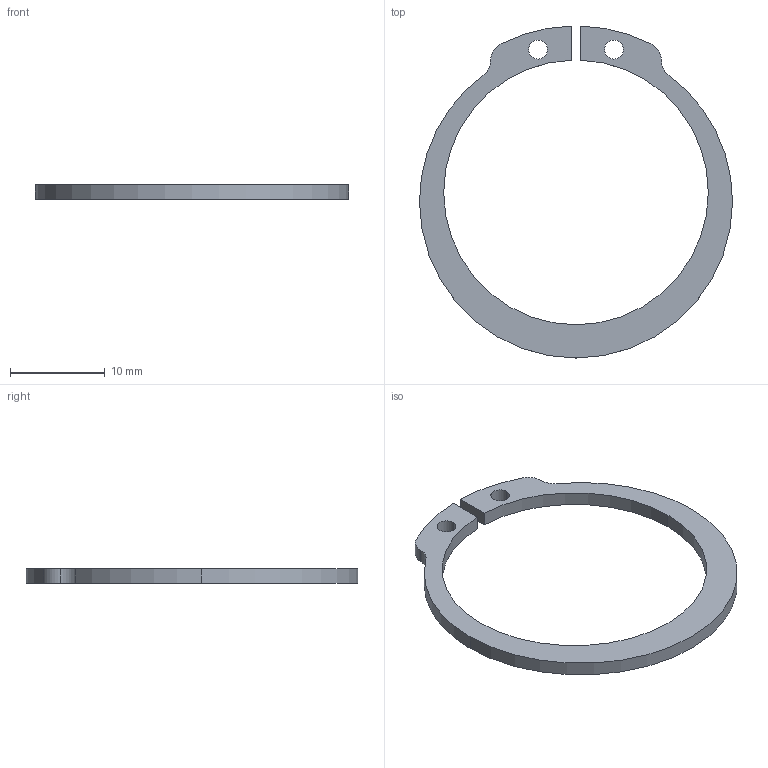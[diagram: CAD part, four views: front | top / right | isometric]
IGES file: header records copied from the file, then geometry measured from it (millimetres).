
Start section: START RECORD GO HERE.
Global section: file name: 553S-R30.igs; native system: DASSAULT SYSTEMES CATIA V5 R20 - www.3ds.com; preprocessor: CATIA Version 5 Release 20 ; author: Utente; organization: NB04-ASUS; date: 20210421.112136; units: millimetre
Bounding box: 33 x 34.99 x 1.5 mm (x, y, z)
Surface area: 860.8 mm2 (no closed solid volume)
Topology: 0 solids, 0 shells, 22 faces, 120 edges, 120 vertices
Faces by surface type: revolution 16, plane 6
